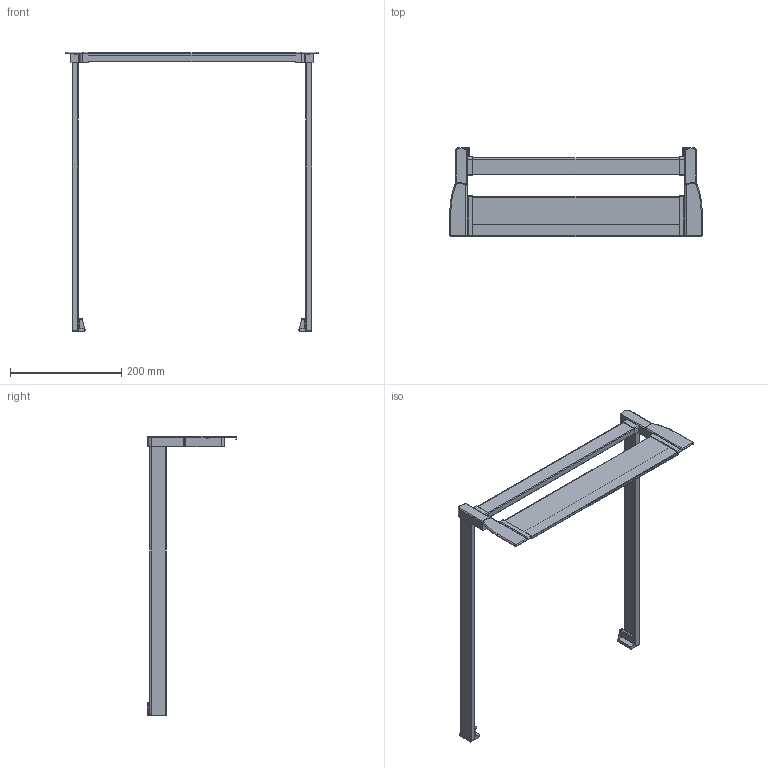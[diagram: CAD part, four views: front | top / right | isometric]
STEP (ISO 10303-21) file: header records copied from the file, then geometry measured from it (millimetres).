
FILE_DESCRIPTION (( 'STEP AP214' ), '1' );
FILE_NAME ('1_P620_NL 500_KAB 500_19er KS_.step', '2009-09-16T06:30:00', ( 'Waldinger Reinhard' ), ( 'Grass GmbH' ), 'SwSTEP 2.0', 'SolidWorks 2009', '' );
FILE_SCHEMA (( 'AUTOMOTIVE_DESIGN' ));
Length unit declared in the file: millimetre
Products named in the file (1): 1_P620_NL 500_KAB 500_19er KS_
Bounding box: 453.6 x 160.5 x 502.8 mm (x, y, z)
Volume: 865103.8 mm3; surface area: 207285.9 mm2
Topology: 1 solids, 1 shells, 220 faces, 578 edges, 364 vertices
Faces by surface type: plane 97, cylinder 91, torus 28, sphere 2, bspline 2
Entity records: 7004 total; most frequent: CARTESIAN_POINT 1345, DIRECTION 1198, ORIENTED_EDGE 1152, EDGE_CURVE 576, AXIS2_PLACEMENT_3D 433, VERTEX_POINT 364, VECTOR 332, LINE 332
